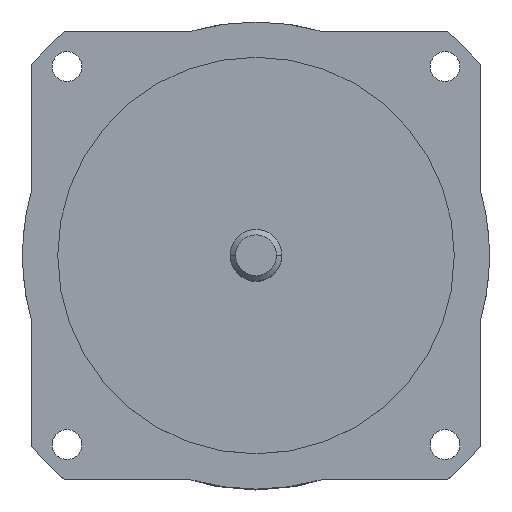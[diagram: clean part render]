
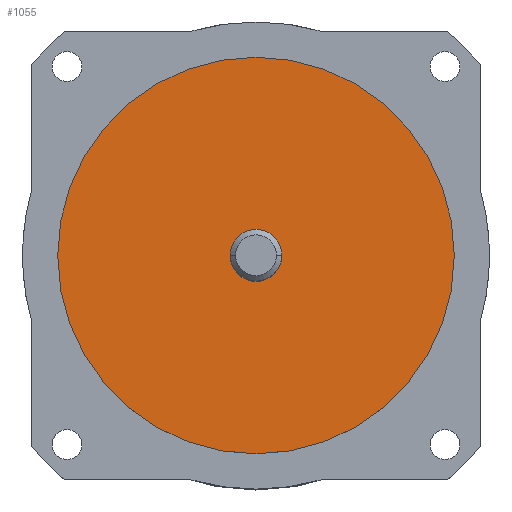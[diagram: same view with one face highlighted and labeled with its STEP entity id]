
A CAD part, top view. The second image highlights one B-rep face of the part: STEP entity #1055.
In plain terms, the highlighted planar face has unit normal (0, 0, 1).
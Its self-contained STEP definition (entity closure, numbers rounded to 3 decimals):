
#1 = CIRCLE ( 'NONE', #1287, 36.51 ) ;
#24 = DIRECTION ( 'NONE',  ( 0., 0., 1. ) ) ;
#29 = EDGE_CURVE ( 'NONE', #1136, #1374, #1413, .T. ) ;
#39 = DIRECTION ( 'NONE',  ( 0., 0., 1. ) ) ;
#53 = ORIENTED_EDGE ( 'NONE', *, *, #29, .T. ) ;
#226 = DIRECTION ( 'NONE',  ( 0., 0., -1. ) ) ;
#267 = ORIENTED_EDGE ( 'NONE', *, *, #905, .T. ) ;
#307 = EDGE_CURVE ( 'NONE', #488, #1114, #1325, .T. ) ;
#319 = FACE_BOUND ( 'NONE', #736, .T. ) ;
#367 = CARTESIAN_POINT ( 'NONE',  ( 0., 0., 1.6 ) ) ;
#381 = CARTESIAN_POINT ( 'NONE',  ( 4.763, 0., 1.6 ) ) ;
#402 = AXIS2_PLACEMENT_3D ( 'NONE', #1178, #519, #1293 ) ;
#483 = PLANE ( 'NONE',  #1391 ) ;
#488 = VERTEX_POINT ( 'NONE', #1023 ) ;
#509 = CARTESIAN_POINT ( 'NONE',  ( 0., 0., 1.6 ) ) ;
#519 = DIRECTION ( 'NONE',  ( 0., 0., -1. ) ) ;
#550 = AXIS2_PLACEMENT_3D ( 'NONE', #509, #1288, #626 ) ;
#626 = DIRECTION ( 'NONE',  ( 1., 0., 0. ) ) ;
#707 = EDGE_CURVE ( 'NONE', #1114, #488, #1062, .T. ) ;
#712 = CARTESIAN_POINT ( 'NONE',  ( 0., 0., 1.6 ) ) ;
#736 = EDGE_LOOP ( 'NONE', ( #942, #1166 ) ) ;
#818 = DIRECTION ( 'NONE',  ( 1., 0., 0. ) ) ;
#897 = CARTESIAN_POINT ( 'NONE',  ( 0., 0., 1.6 ) ) ;
#905 = EDGE_CURVE ( 'NONE', #1374, #1136, #1, .T. ) ;
#942 = ORIENTED_EDGE ( 'NONE', *, *, #307, .T. ) ;
#1014 = DIRECTION ( 'NONE',  ( 1., 0., 0. ) ) ;
#1023 = CARTESIAN_POINT ( 'NONE',  ( -4.763, 0., 1.6 ) ) ;
#1055 = ADVANCED_FACE ( 'NONE', ( #1203, #319 ), #483, .T. ) ;
#1062 = CIRCLE ( 'NONE', #1240, 4.763 ) ;
#1114 = VERTEX_POINT ( 'NONE', #381 ) ;
#1136 = VERTEX_POINT ( 'NONE', #1153 ) ;
#1153 = CARTESIAN_POINT ( 'NONE',  ( 36.51, 0., 1.6 ) ) ;
#1163 = CARTESIAN_POINT ( 'NONE',  ( -36.51, 0., 1.6 ) ) ;
#1166 = ORIENTED_EDGE ( 'NONE', *, *, #707, .T. ) ;
#1178 = CARTESIAN_POINT ( 'NONE',  ( 0., 0., 1.6 ) ) ;
#1203 = FACE_OUTER_BOUND ( 'NONE', #1319, .T. ) ;
#1240 = AXIS2_PLACEMENT_3D ( 'NONE', #897, #226, #1014 ) ;
#1250 = DIRECTION ( 'NONE',  ( 1., 0., 0. ) ) ;
#1287 = AXIS2_PLACEMENT_3D ( 'NONE', #712, #39, #818 ) ;
#1288 = DIRECTION ( 'NONE',  ( 0., 0., 1. ) ) ;
#1293 = DIRECTION ( 'NONE',  ( 1., 0., 0. ) ) ;
#1319 = EDGE_LOOP ( 'NONE', ( #267, #53 ) ) ;
#1325 = CIRCLE ( 'NONE', #402, 4.763 ) ;
#1374 = VERTEX_POINT ( 'NONE', #1163 ) ;
#1391 = AXIS2_PLACEMENT_3D ( 'NONE', #367, #24, #1250 ) ;
#1413 = CIRCLE ( 'NONE', #550, 36.51 ) ;
